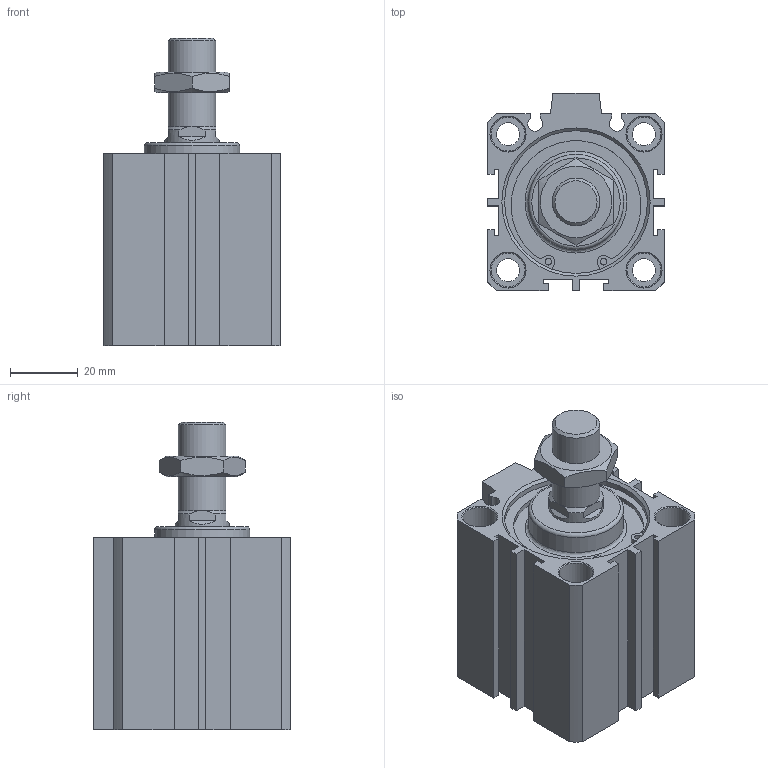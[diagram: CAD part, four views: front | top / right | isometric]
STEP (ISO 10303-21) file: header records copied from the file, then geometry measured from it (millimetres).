
FILE_DESCRIPTION((''),'2;1');
FILE_NAME('I:\3D電子目錄\氣缸\JD\JD-BS\JD40-BS\JD40\JD40x20-BS.stp','2007-08-06T08:50:34',('66-2f-008'),(''),'Autodesk Inventor 11','Autodesk Inventor 11','');
FILE_SCHEMA(('AUTOMOTIVE_DESIGN { 1 0 10303 214 1 1 1 1 }'));
Length unit declared in the file: millimetre
Products named in the file (3): JD40x20-BS; JD040x20-BS; R 形環 42
Assembly tree (3 placements, depth 2):
  JD40x20-BS
    JD040x20-BS
    R 形環 42  x2
Bounding box: 52 x 58 x 90.5 mm (x, y, z)
Volume: 136206.3 mm3; surface area: 34127.4 mm2
Topology: 3 solids, 3 shells, 169 faces, 401 edges, 261 vertices
Faces by surface type: plane 97, cylinder 47, cone 21, bspline 2, torus 2
Full cylindrical faces by diameter (mm): 1.9 x4, 2.2 x2, 6.8 x4, 10 x8, 14 x2, 16 x1, 28 x1, 29 x1, 42 x4, 44.5 x2
Entity records: 4385 total; most frequent: CARTESIAN_POINT 843, DIRECTION 730, ORIENTED_EDGE 634, EDGE_CURVE 317, AXIS2_PLACEMENT_3D 272, EDGE_LOOP 240, VERTEX_POINT 235, VECTOR 186
